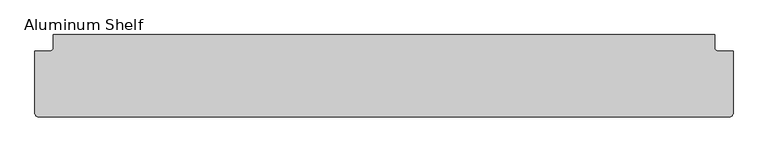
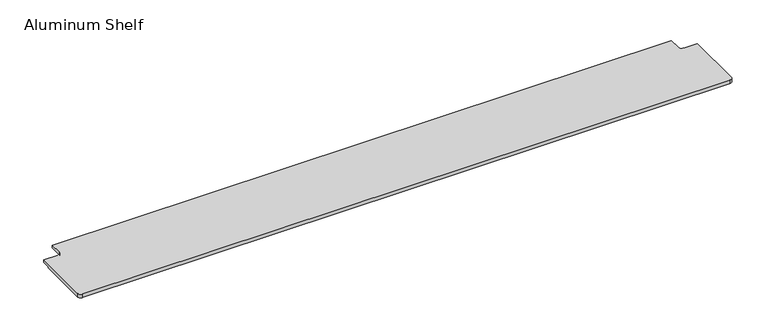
"""IFC4 building model written with IfcOpenShell, lengths in millimetres: furniture geometry, Furniture-Shelf-Teknion-Altos_Landscape-R2015 : Aluminum Shelf."""

from ifc_helpers import new_model, si_unit, frame, origin, place, context, project, spatial, polyline, circle_curve, source, transform, mapped, element, save
from ifc_brep_helpers import plane_surface, cylinder_surface, revolved_surface, advanced_brep


def aluminum_shelf_9e608764(model_context):
    return source(origin(), model_context, "Body", "AdvancedBrep", [
        advanced_brep(
        [(-1136.65, -70.8560781, 2.4854), (73.025, -70.8560781, 2.4854), (79.375, -64.5060781, 2.4854), (79.375, 44.5882219, 2.4854), (53.3146, 44.5882219, 2.4854), (46.9646, 50.9382219, 2.4854), (46.9646, 73.1812219, 2.4854), (-1110.5896, 73.1812219, 2.4854), (-1110.5896, 50.9382219, 2.4854), (-1116.9396, 44.5882219, 2.4854), (-1143.0, 44.5882219, 2.4854), (-1143.0, -64.5060781, 2.4854), (-1136.65, -70.8560781, -4.5146), (-1143.0, -64.5060781, -4.5146), (-1143.0, 29.2199219, -4.5146), (79.375, 29.2199219, -4.5146), (79.375, -64.5060781, -4.5146), (73.025, -70.8560781, -4.5146), (79.375, 29.2199219, -2.51586), (79.375, 44.5882219, -2.51586), (53.3146, 44.5882219, -2.51586), (46.9646, 50.9382219, -2.51586), (46.9646, 73.1812219, -2.51586), (-1110.5896, 73.1812219, -2.51586), (-1110.5896, 50.9382219, -2.51586), (-1116.9396, 44.5882219, -2.51586), (-1143.0, 44.5882219, -2.51586), (-1143.0, 29.2199219, -2.51586)],
        [
            (0, 1),
            (1, 2, circle_curve(frame((73.025, -64.5060781, 2.4854), z_axis=(0.0, 0.0, 1.0), x_axis=(1.0, 0.0, 0.0)), 6.35)),
            (2, 3),
            (3, 4),
            (4, 5, circle_curve(frame((53.3146, 50.9382219, 2.4854), z_axis=(0.0, 0.0, -1.0), x_axis=(1.0, 0.0, 0.0)), 6.35)),
            (5, 6),
            (6, 7),
            (7, 8),
            (8, 9, circle_curve(frame((-1116.9396, 50.9382219, 2.4854), z_axis=(0.0, 0.0, -1.0), x_axis=(1.0, 0.0, 0.0)), 6.35)),
            (9, 10),
            (10, 11),
            (11, 0, circle_curve(frame((-1136.65, -64.5060781, 2.4854), z_axis=(0.0, 0.0, 1.0), x_axis=(1.0, 0.0, 0.0)), 6.35)),
            (12, 13, circle_curve(frame((-1136.65, -64.5060781, -4.5146), z_axis=(0.0, 0.0, -1.0), x_axis=(1.0, 0.0, 0.0)), 6.35)),
            (13, 14),
            (14, 15),
            (15, 16),
            (16, 17, circle_curve(frame((73.025, -64.5060781, -4.5146), z_axis=(0.0, 0.0, -1.0), x_axis=(1.0, 0.0, 0.0)), 6.35)),
            (17, 12),
            (0, 12),
            (17, 1),
            (16, 2),
            (15, 18),
            (18, 19),
            (19, 3),
            (19, 20),
            (20, 4),
            (20, 21, circle_curve(frame((53.3146, 50.9382219, -2.51586), z_axis=(0.0, 0.0, -1.0), x_axis=(1.0, 0.0, 0.0)), 6.35)),
            (21, 5),
            (21, 22),
            (22, 6),
            (22, 23),
            (23, 7),
            (23, 24),
            (24, 8),
            (24, 25, circle_curve(frame((-1116.9396, 50.9382219, -2.51586), z_axis=(0.0, 0.0, -1.0), x_axis=(1.0, 0.0, 0.0)), 6.35)),
            (25, 9),
            (25, 26),
            (26, 10),
            (26, 27),
            (27, 14),
            (13, 11),
            (27, 18),
        ],
        [
            plane_surface(frame((-531.8125, -31.1050781, 2.4854), z_axis=(0.0, 0.0, 1.0), x_axis=(1.0, 0.0, 0.0))),
            plane_surface(frame((-531.8125, -31.1050781, -4.5146), z_axis=(0.0, 0.0, -1.0), x_axis=(1.0, 0.0, 0.0))),
            plane_surface(frame((-1136.65, -70.8560781, 2.4854), z_axis=(0.0, -1.0, 0.0), x_axis=(0.0, 0.0, -1.0))),
            cylinder_surface(frame((73.025, -64.5060781, 2.4854), z_axis=(0.0, 0.0, 1.0), x_axis=(1.0, 0.0, 0.0)), 6.35),
            plane_surface(frame((79.375, -64.5060781, 2.4854), z_axis=(1.0, 0.0, 0.0), x_axis=(0.0, 0.0, -1.0))),
            plane_surface(frame((79.375, 44.5882219, 2.4854), z_axis=(0.0, 1.0, 0.0), x_axis=(0.0, 0.0, -1.0))),
            revolved_surface(polyline([(59.6646, 50.9382219, -2.5158600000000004), (59.6646, 50.9382219, 2.4854)]), (53.3146, 50.9382219, 2.4854), (0.0, 0.0, -1.0)),
            plane_surface(frame((46.9646, 50.9382219, 2.4854), z_axis=(1.0, 0.0, 0.0), x_axis=(0.0, 0.0, -1.0))),
            plane_surface(frame((46.9646, 73.1812219, 2.4854), z_axis=(0.0, 1.0, 0.0), x_axis=(0.0, 0.0, -1.0))),
            plane_surface(frame((-1110.5896, 73.1812219, 2.4854), z_axis=(-1.0, 0.0, 0.0), x_axis=(0.0, 0.0, -1.0))),
            revolved_surface(polyline([(-1110.5896, 50.9382219, -2.5158600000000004), (-1110.5896, 50.9382219, 2.4854)]), (-1116.9396, 50.9382219, 2.4854), (0.0, 0.0, -1.0)),
            plane_surface(frame((-1116.9396, 44.5882219, 2.4854), z_axis=(0.0, 1.0, 0.0), x_axis=(0.0, 0.0, -1.0))),
            plane_surface(frame((-1143.0, 44.5882219, 2.4854), z_axis=(-1.0, 0.0, 0.0), x_axis=(0.0, 0.0, -1.0))),
            cylinder_surface(frame((-1136.65, -64.5060781, 2.4854), z_axis=(0.0, 0.0, 1.0), x_axis=(1.0, 0.0, 0.0)), 6.35),
            plane_surface(frame((-1143.0, 29.2199219, -14.4803672), z_axis=(0.0, 1.0, 0.0), x_axis=(1.0, 0.0, 0.0))),
            plane_surface(frame((-1143.0, 29.2199219, -2.51586), z_axis=(0.0, 0.0, -1.0), x_axis=(1.0, 0.0, 0.0))),
        ],
        [
            (0, [[1, 2, 3, 4, 5, 6, 7, 8, 9, 10, 11, 12]]),
            (1, [[13, 14, 15, 16, 17, 18]]),
            (2, [[-1, 19, -18, 20]]),
            (3, [[-2, -20, -17, 21]]),
            (4, [[-3, -21, -16, 22, 23, 24]]),
            (5, [[-4, -24, 25, 26]]),
            (6, [[-5, -26, 27, 28]]),
            (7, [[-6, -28, 29, 30]]),
            (8, [[-7, -30, 31, 32]]),
            (9, [[-8, -32, 33, 34]]),
            (10, [[-9, -34, 35, 36]]),
            (11, [[-10, -36, 37, 38]]),
            (12, [[-11, -38, 39, 40, -14, 41]]),
            (13, [[-12, -41, -13, -19]]),
            (14, [[42, -22, -15, -40]]),
            (15, [[-42, -39, -37, -35, -33, -31, -29, -27, -25, -23]]),
        ],
    ),
    ])


if __name__ == "__main__":
    model = new_model("IFC4")
    model_context = context("Model", 3, world=origin())
    ifc_project = project(units=[si_unit("LENGTHUNIT", "METRE", prefix="MILLI")], contexts=[model_context])
    site = spatial("IfcSite", under=ifc_project)
    building = spatial("IfcBuilding", under=site)
    placement = place(None, origin())
    aluminum_shelf_shape = aluminum_shelf_9e608764(model_context)
    element("IfcFurniture", 1, ObjectType="Furniture-Shelf-Teknion-Altos_Landscape-R2015 : Aluminum Shelf", at=placement, inside=building, context=model_context, shape_type="MappedRepresentation", body=[
        mapped(aluminum_shelf_shape, transform((0.0, 0.0, 0.0), x_axis=(1.0, 0.0, 0.0), y_axis=(0.0, 1.0, 0.0), z_axis=(0.0, 0.0, 1.0))),
    ])
    save(model, "model.ifc")
